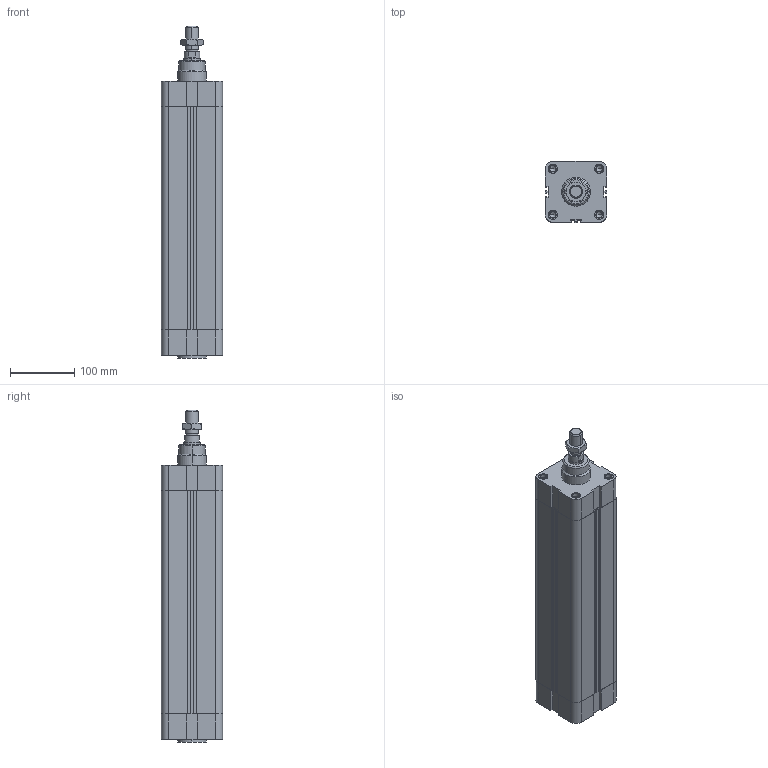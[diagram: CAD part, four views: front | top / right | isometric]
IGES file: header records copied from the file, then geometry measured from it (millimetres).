
Global section: file name: No Iges File Name specified; native system: Autodesk Inventor 2010; preprocessor: AutoDesk Inventor Iges Exporter R2010; author: rivolro1; date: 20090707.103439; units: millimetre
Bounding box: 95.5 x 95.5 x 518 mm (x, y, z)
Volume: 2469884.4 mm3; surface area: 389725.3 mm2
Topology: 5 solids, 5 shells, 290 faces, 694 edges, 440 vertices
Faces by surface type: plane 120, bspline 74, cylinder 40, revolution 34, cone 20, torus 2
